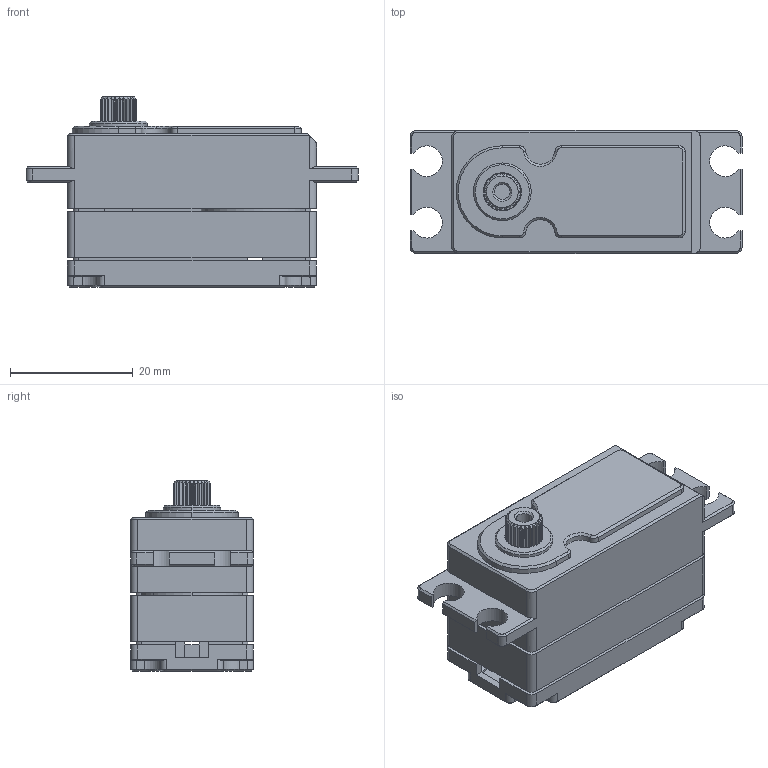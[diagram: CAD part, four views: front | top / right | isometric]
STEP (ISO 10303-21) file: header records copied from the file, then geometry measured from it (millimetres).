
FILE_DESCRIPTION (( 'STEP AP214' ), '1' );
FILE_NAME ('BLS1509_DM_202001.STEP', '2023-11-09T02:57:53', ( '' ), ( '' ), 'SwSTEP 2.0', 'SolidWorks 2016', '' );
FILE_SCHEMA (( 'AUTOMOTIVE_DESIGN' ));
Length unit declared in the file: millimetre
Products named in the file (1): BLS1509_DM_202001
Bounding box: 54 x 20 x 31 mm (x, y, z)
Surface area: 7625.9 mm2 (no closed solid volume)
Topology: 0 solids, 8 shells, 395 faces, 1199 edges, 819 vertices
Faces by surface type: plane 183, cylinder 143, cone 69
Entity records: 18362 total; most frequent: CARTESIAN_POINT 3275, DIRECTION 2249, ORIENTED_EDGE 2181, EDGE_CURVE 1199, VERTEX_POINT 819, AXIS2_PLACEMENT_3D 788, LINE 673, VECTOR 673
